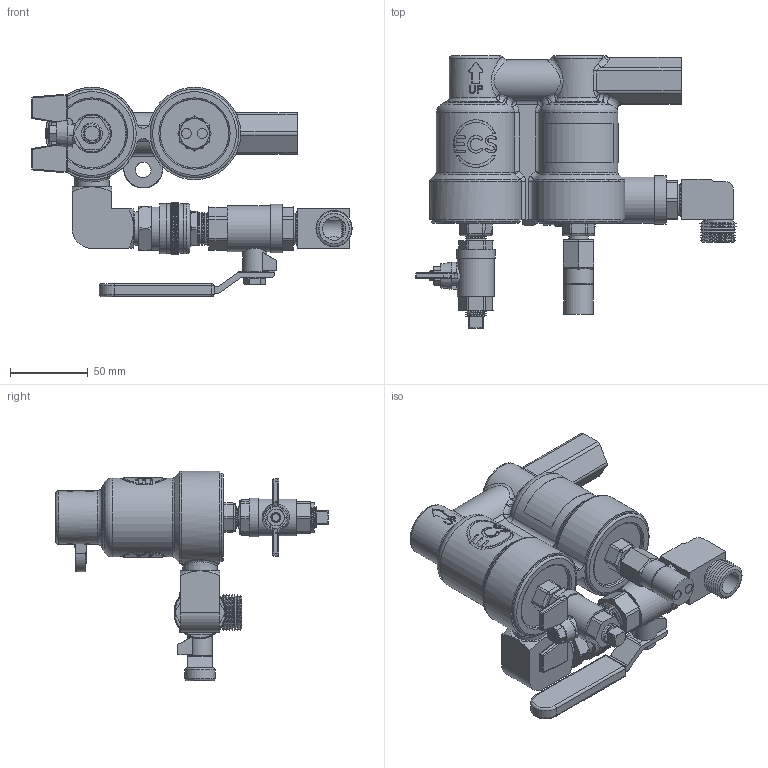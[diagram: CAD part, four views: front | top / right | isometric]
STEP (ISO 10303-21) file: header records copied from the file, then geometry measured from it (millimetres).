
FILE_DESCRIPTION(/* description */ (''),/* implementation_level */ '2;1');
FILE_NAME(/* name */ 'PAV-WS.stp',/* time_stamp */ '2023-03-03T15:47:01-06:00',/* author */ ('atroll'),/* organization */ (''),/* preprocessor_version */ 'ST-DEVELOPER v19.2',/* originating_system */ 'Autodesk Inventor 2023',/* authorisation */ '');
FILE_SCHEMA (('AUTOMOTIVE_DESIGN { 1 0 10303 214 3 1 1 }'));
Length unit declared in the file: inch
Products named in the file (1): PAV-WS_Simplify
Bounding box: 206.14 x 175.16 x 134.78 mm (x, y, z)
Volume: 649959.9 mm3; surface area: 97883 mm2
Topology: 1 solids, 1 shells, 3509 faces, 8206 edges, 4752 vertices
Faces by surface type: plane 2445, cylinder 644, bspline 196, cone 165, sphere 34, torus 25
Full cylindrical faces by diameter (mm): 5.527 x9, 6.221 x8, 6.272 x1, 6.35 x2, 6.729 x1, 7.057 x5, 7.785 x4, 7.836 x1, 10.084 x1, 12.494 x1, 12.7 x1, 13.998 x1, 15.088 x2, 15.621 x1, 17.475 x1, 17.856 x1, 18.197 x1, 18.689 x1, 19.05 x2, 19.66 x1, 21.336 x4, 21.749 x1, 23.786 x1, 24.987 x1, 27.781 x1, 29.74 x1, 31.242 x1, 31.75 x2, 32.385 x2
Entity records: 113720 total; most frequent: CARTESIAN_POINT 30762, DIRECTION 16883, ORIENTED_EDGE 16370, EDGE_CURVE 8185, AXIS2_PLACEMENT_3D 6016, LINE 4851, VECTOR 4851, VERTEX_POINT 4752
